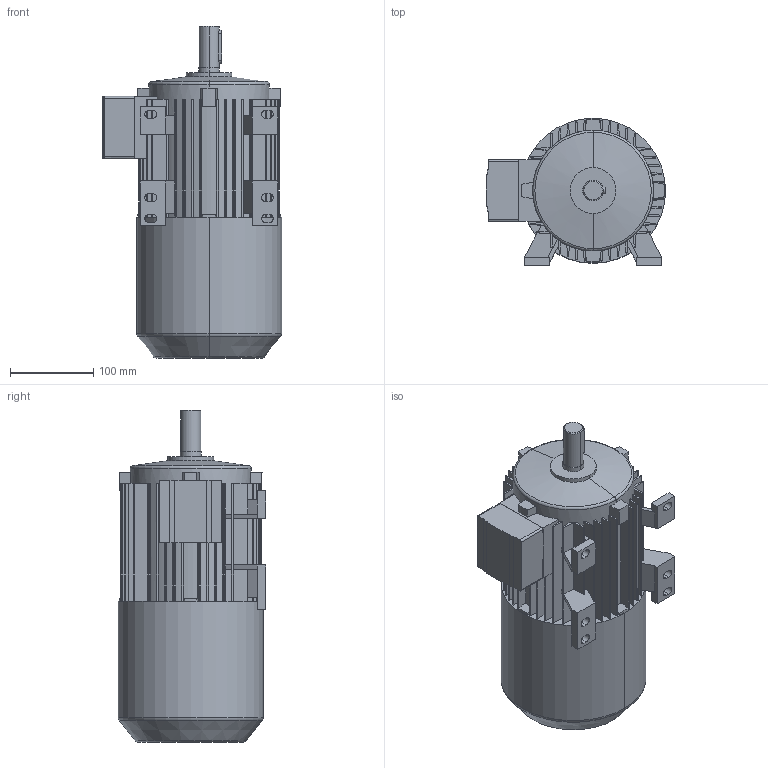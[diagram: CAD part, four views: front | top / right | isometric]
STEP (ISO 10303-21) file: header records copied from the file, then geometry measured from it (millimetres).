
FILE_DESCRIPTION((''),'2;1');
FILE_NAME('1LA7090-2AA10-Z-G26-K10_PRT','2002-04-12T',('martin könig'),(''),'PRO/ENGINEER BY PARAMETRIC TECHNOLOGY CORPORATION, 2002030','PRO/ENGINEER BY PARAMETRIC TECHNOLOGY CORPORATION, 2002030','');
FILE_SCHEMA(('CONFIG_CONTROL_DESIGN'));
Length unit declared in the file: millimetre
Products named in the file (1): 1LA7090-2AA10-Z-G26-K10_PRT
Bounding box: 215 x 177 x 398.5 mm (x, y, z)
Volume: 7213347.7 mm3; surface area: 391311.4 mm2
Topology: 1 solids, 1 shells, 360 faces, 1030 edges, 678 vertices
Faces by surface type: plane 248, cylinder 100, torus 6, cone 6
Entity records: 11847 total; most frequent: CARTESIAN_POINT 2099, ORIENTED_EDGE 2060, DIRECTION 2040, EDGE_CURVE 1030, VECTOR 736, LINE 736, VERTEX_POINT 678, AXIS2_PLACEMENT_3D 652
